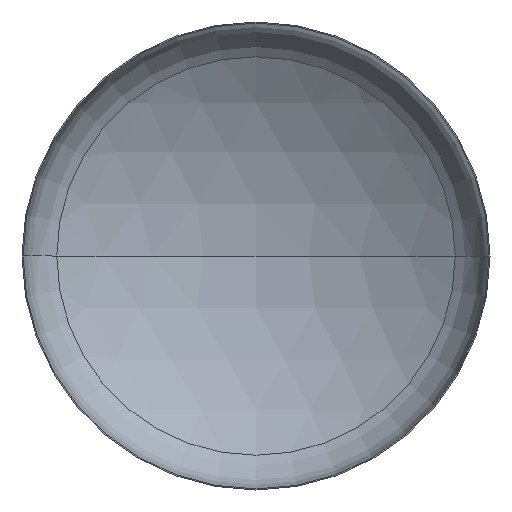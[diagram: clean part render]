
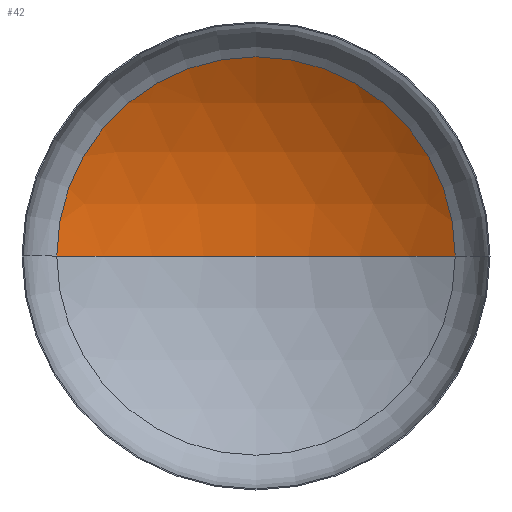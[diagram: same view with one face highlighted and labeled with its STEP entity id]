
A CAD part, front view. The second image highlights one B-rep face of the part: STEP entity #42.
In plain terms, the highlighted spherical face has radius 1040 mm.
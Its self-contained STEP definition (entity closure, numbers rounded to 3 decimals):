
#1 = DIRECTION ( 'NONE',  ( 0., 0., 1. ) ) ;
#3 = CARTESIAN_POINT ( 'NONE',  ( 0., -691.19, 0. ) ) ;
#10 = CARTESIAN_POINT ( 'NONE',  ( 553.429, 189.331, 0. ) ) ;
#26 = AXIS2_PLACEMENT_3D ( 'NONE', #3, #1, #209 ) ;
#28 = AXIS2_PLACEMENT_3D ( 'NONE', #362, #67, #357 ) ;
#29 = AXIS2_PLACEMENT_3D ( 'NONE', #152, #127, #132 ) ;
#42 = ADVANCED_FACE ( 'NONE', ( #395 ), #316, .F. ) ;
#43 = VERTEX_POINT ( 'NONE', #201 ) ;
#48 = AXIS2_PLACEMENT_3D ( 'NONE', #257, #202, #253 ) ;
#61 = CIRCLE ( 'NONE', #26, 1040. ) ;
#67 = DIRECTION ( 'NONE',  ( 0., 0., -1. ) ) ;
#69 = EDGE_CURVE ( 'NONE', #252, #195, #293, .T. ) ;
#73 = EDGE_CURVE ( 'NONE', #43, #252, #221, .T. ) ;
#74 = EDGE_CURVE ( 'NONE', #43, #195, #61, .T. ) ;
#127 = DIRECTION ( 'NONE',  ( 0., -1., 0. ) ) ;
#131 = ORIENTED_EDGE ( 'NONE', *, *, #74, .F. ) ;
#132 = DIRECTION ( 'NONE',  ( 1., 0., 0. ) ) ;
#152 = CARTESIAN_POINT ( 'NONE',  ( 0., 189.331, 0. ) ) ;
#154 = ORIENTED_EDGE ( 'NONE', *, *, #69, .T. ) ;
#190 = CARTESIAN_POINT ( 'NONE',  ( -553.429, 189.331, 0. ) ) ;
#195 = VERTEX_POINT ( 'NONE', #190 ) ;
#201 = CARTESIAN_POINT ( 'NONE',  ( 0., 348.81, 0. ) ) ;
#202 = DIRECTION ( 'NONE',  ( 0., 0., -1. ) ) ;
#209 = DIRECTION ( 'NONE',  ( 1., 0., 0. ) ) ;
#221 = CIRCLE ( 'NONE', #28, 1040. ) ;
#252 = VERTEX_POINT ( 'NONE', #10 ) ;
#253 = DIRECTION ( 'NONE',  ( -1., 0., 0. ) ) ;
#257 = CARTESIAN_POINT ( 'NONE',  ( 0., -691.19, 0. ) ) ;
#293 = CIRCLE ( 'NONE', #29, 553.429 ) ;
#316 = SPHERICAL_SURFACE ( 'NONE', #48, 1040. ) ;
#338 = EDGE_LOOP ( 'NONE', ( #131, #389, #154 ) ) ;
#357 = DIRECTION ( 'NONE',  ( -1., 0., 0. ) ) ;
#362 = CARTESIAN_POINT ( 'NONE',  ( 0., -691.19, 0. ) ) ;
#389 = ORIENTED_EDGE ( 'NONE', *, *, #73, .T. ) ;
#395 = FACE_OUTER_BOUND ( 'NONE', #338, .T. ) ;
